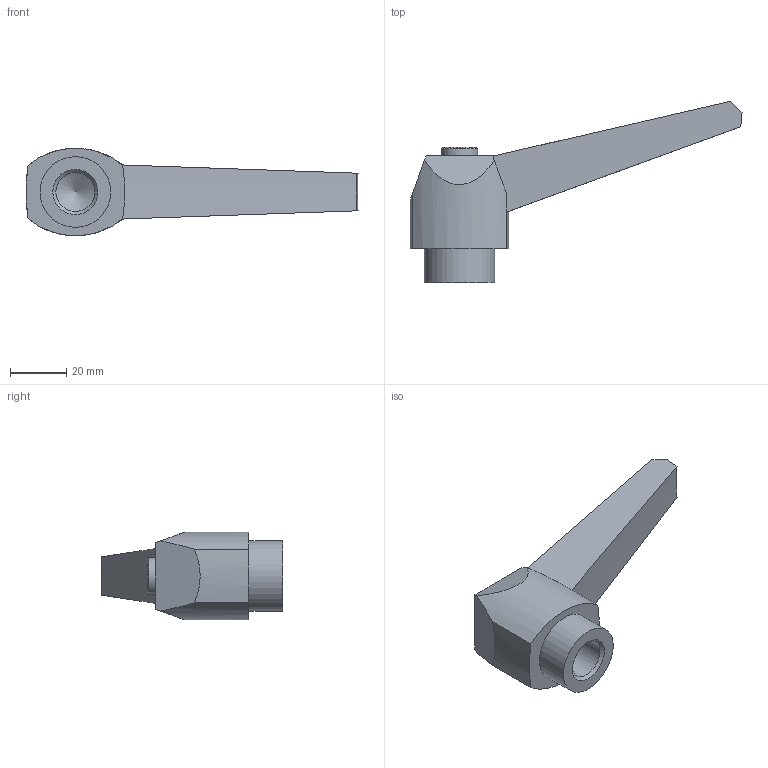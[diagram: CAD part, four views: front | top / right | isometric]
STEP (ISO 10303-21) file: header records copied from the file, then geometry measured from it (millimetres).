
FILE_DESCRIPTION( ( 'STEP AP203' ), '1' );
FILE_NAME( 'C:/Temp/Ganter_Step_05_03_2020/data/2_1/gn_500/gn_500_mb/Adjustable hand lever GN 500-100-M16-SW.stp', '2020-03-05T11:26:30', ( 'License CC BY-ND 4.0' ), ( 'CADENAS' ), ' ', 'PARTsolutions', ' ' );
FILE_SCHEMA( ( 'CONFIG_CONTROL_DESIGN' ) );
Length unit declared in the file: millimetre
Products named in the file (1): _Adjustable hand lever GN 500-100-M16-SW
Bounding box: 117.62 x 64.28 x 31 mm (x, y, z)
Volume: 52727.7 mm3; surface area: 12384.6 mm2
Topology: 1 solids, 1 shells, 24 faces, 58 edges, 38 vertices
Faces by surface type: plane 10, cone 7, cylinder 7
Full cylindrical faces by diameter (mm): 13 x1, 13.835 x1, 25 x1
Entity records: 713 total; most frequent: CARTESIAN_POINT 125, DIRECTION 118, ORIENTED_EDGE 100, EDGE_CURVE 50, AXIS2_PLACEMENT_3D 47, VERTEX_POINT 37, EDGE_LOOP 32, FACE_OUTER_BOUND 27
